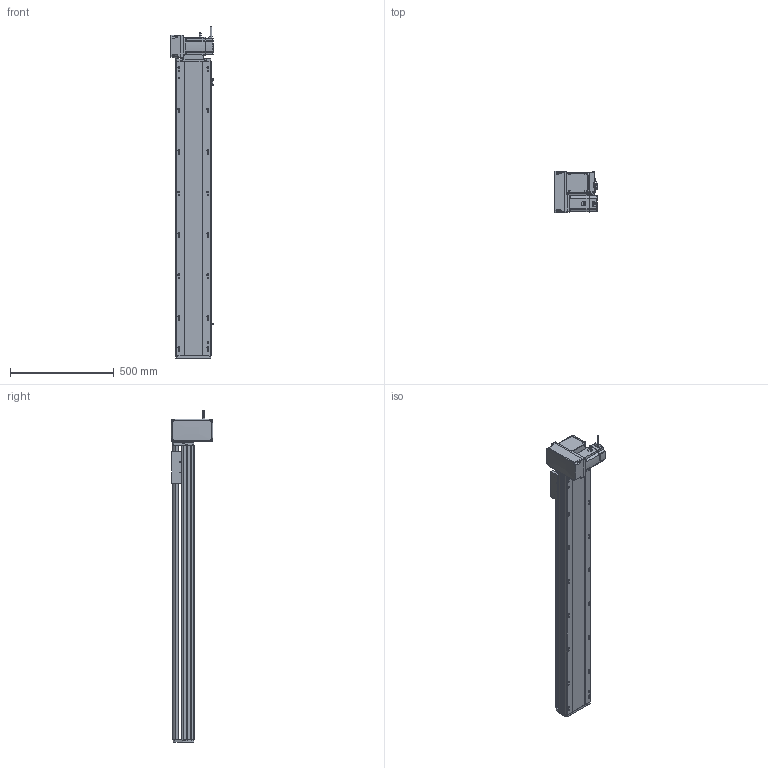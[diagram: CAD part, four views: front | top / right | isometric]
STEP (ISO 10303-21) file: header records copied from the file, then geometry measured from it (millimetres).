
FILE_DESCRIPTION (( 'STEP AP214' ), '1' );
FILE_NAME ('RTB17S-XX-1150-LM-M75-C4.STEP', '2025-12-12T00:39:33', ( '' ), ( '' ), 'SwSTEP 2.0', 'SolidWorks 2018', '' );
FILE_SCHEMA (( 'AUTOMOTIVE_DESIGN' ));
Length unit declared in the file: millimetre
Products named in the file (15): RTB17S-L-004-賑釱^RTB17S-賑釱_RTB17S-XX-XX-LM-M75-C4; RTB17S-LM-々湍釱蚾饜-750W^RTB17S-XX-XX-LM-M75-C4; RTB17-R-011菁釱^RTB17S-XX-XX-LM-M75-C4; RTH13-BL-012覜茼え俋离^RTB17S-賑釱_RTB17S-XX-XX-LM-M75-C4; RTB17S-L-001-耜醱啣^RTB17S-XX-XX-LM-M75-C4; RTB22S-GY-018P^RTB17S-LM-々湍釱蚾饜-750W_RTB17S-XX-XX-LM-M75-C4; RTB22S-GY-008-M75--萇儂啣^RTB17S-LM-々湍釱蚾饜-750W_RTB17S-XX-XX-LM-M75-C4; RTB17S-XX-1150-LM-M75-C4; RTB17S-賑釱^RTB17S-XX-XX-LM-M75-C4; RTB22S-GY-005P^RTB17S-LM-々湍釱蚾饜-750W_RTB17S-XX-XX-LM-M75-C4; RTB22S-GY-017P^RTB17S-LM-々湍釱蚾饜-750W_RTB17S-XX-XX-LM-M75-C4; RTB17S-L-014-T20-P75--々湍釱^RTB17S-LM-々湍釱蚾饜-750W_RTB17S-XX-XX-LM-M75-C4; EE672^RTB17S-XX-XX-LM-M75-C4; 750W萇儂^RTB17S-XX-XX-LM-M75-C4; RTB17S-L-007奻裔^RTB17S-XX-XX-LM-M75-C4
Assembly tree (17 placements, depth 3):
  RTB17S-XX-1150-LM-M75-C4
    RTB17-R-011菁釱^RTB17S-XX-XX-LM-M75-C4
    EE672^RTB17S-XX-XX-LM-M75-C4  x3
    RTB17S-L-001-耜醱啣^RTB17S-XX-XX-LM-M75-C4
    RTB17S-賑釱^RTB17S-XX-XX-LM-M75-C4
      RTB17S-L-004-賑釱^RTB17S-賑釱_RTB17S-XX-XX-LM-M75-C4
      RTH13-BL-012覜茼え俋离^RTB17S-賑釱_RTB17S-XX-XX-LM-M75-C4
    RTB17S-L-007奻裔^RTB17S-XX-XX-LM-M75-C4
    750W萇儂^RTB17S-XX-XX-LM-M75-C4
    RTB17S-LM-々湍釱蚾饜-750W^RTB17S-XX-XX-LM-M75-C4
      RTB17S-L-014-T20-P75--々湍釱^RTB17S-LM-々湍釱蚾饜-750W_RTB17S-XX-XX-LM-M75-C4
      RTB22S-GY-005P^RTB17S-LM-々湍釱蚾饜-750W_RTB17S-XX-XX-LM-M75-C4
      RTB22S-GY-017P^RTB17S-LM-々湍釱蚾饜-750W_RTB17S-XX-XX-LM-M75-C4  x2
      RTB22S-GY-008-M75--萇儂啣^RTB17S-LM-々湍釱蚾饜-750W_RTB17S-XX-XX-LM-M75-C4
      RTB22S-GY-018P^RTB17S-LM-々湍釱蚾饜-750W_RTB17S-XX-XX-LM-M75-C4
Bounding box: 210.4 x 200 x 1602.2 mm (x, y, z)
Volume: 13138812.9 mm3; surface area: 2255168.4 mm2
Topology: 17 solids, 17 shells, 2105 faces, 5836 edges, 3770 vertices
Faces by surface type: plane 972, cylinder 717, bspline 294, cone 110, sphere 8, torus 4
Entity records: 58870 total; most frequent: CARTESIAN_POINT 17300, ORIENTED_EDGE 8516, DIRECTION 7952, EDGE_CURVE 4258, AXIS2_PLACEMENT_3D 2790, VERTEX_POINT 2774, VECTOR 2372, LINE 2372
